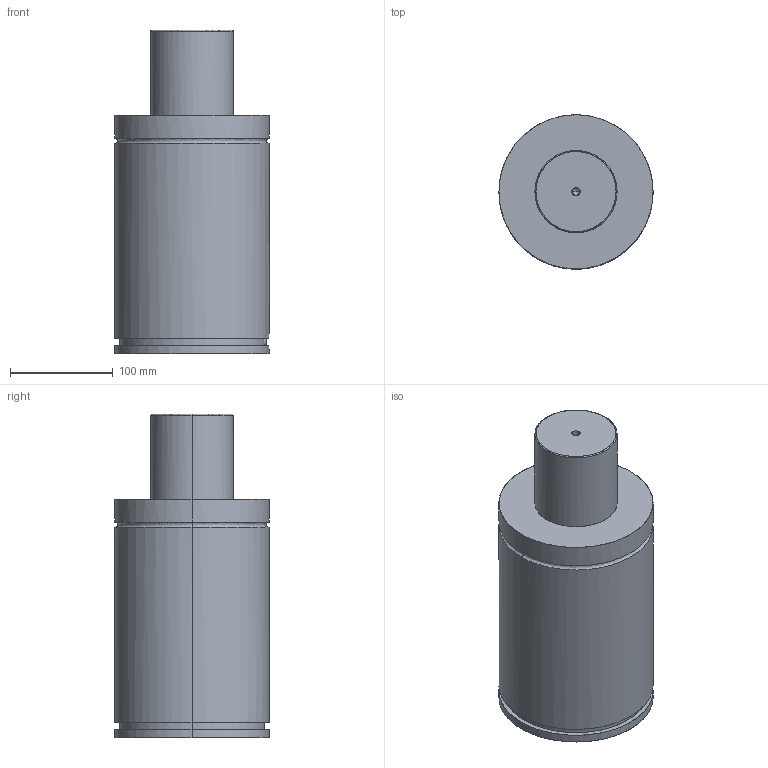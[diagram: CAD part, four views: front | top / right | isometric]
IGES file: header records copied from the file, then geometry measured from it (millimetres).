
Global section: file name: E:\UnigraphicsGraphicData\MISUMI_PRESS-PARTS\IGES\3d_gse150-80_03870_r00.igs; native system: NX V5.0; preprocessor: UGS NX IGES V5.0; author: MISUMI; date: 20110105.160755; units: millimetre
Bounding box: 150 x 150 x 315 mm (x, y, z)
Surface area: 173884.1 mm2 (no closed solid volume)
Topology: 0 solids, 0 shells, 75 faces, 604 edges, 602 vertices
Faces by surface type: bspline 75
